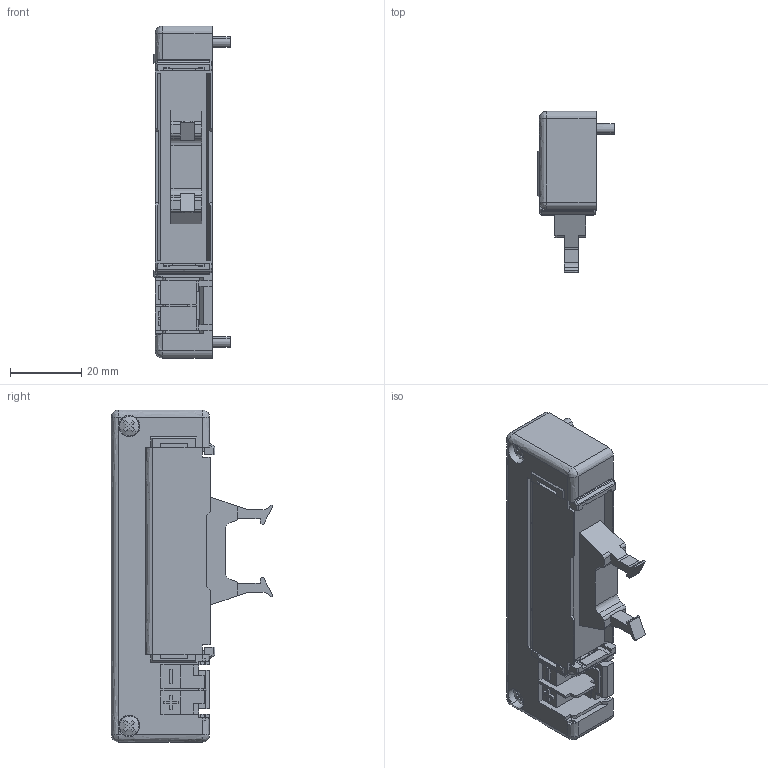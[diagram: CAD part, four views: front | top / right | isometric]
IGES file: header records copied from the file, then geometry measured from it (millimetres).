
Start section: ------------------------------------------------------------------------
Global section: file name: D:\ICADMX\tmp\trans3d_spg\CVICAD32.14756.FZX-F10x_9933.igs; native system: spGate; preprocessor: ver12.6.6; author: Unknown; organization: Unknown; date: 200909.091628; units: millimetre
Bounding box: 21.4 x 45.2 x 93 mm (x, y, z)
Volume: 34092.3 mm3; surface area: 14794.5 mm2
Topology: 2 solids, 2 shells, 415 faces, 1206 edges, 778 vertices
Faces by surface type: bspline 415
